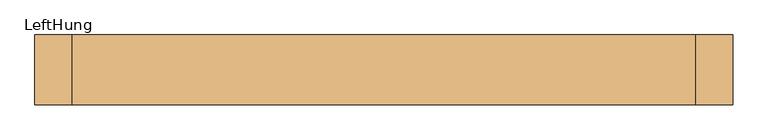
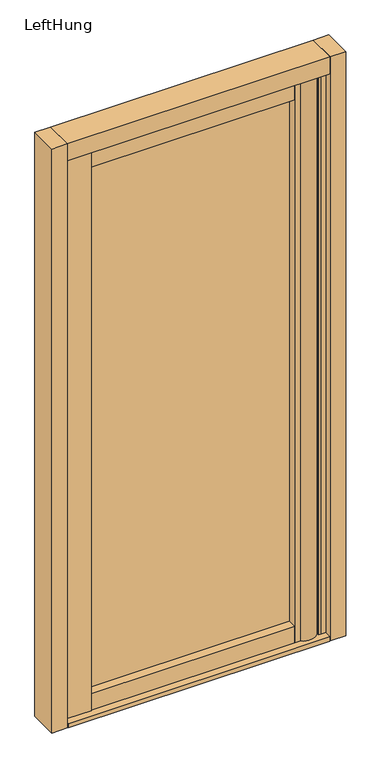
"""IFC4 building model written with IfcOpenShell, lengths in millimetres: door geometry, SMARTS_SmartWall : LeftHung."""

from ifc_helpers import new_model, si_unit, point, frame, frame_2d, origin, place, context, project, spatial, polyline, circle_curve, trimmed, segment, composite_curve, outline, extrude, source, transform, mapped, element, save


def lefthung_8a170635(model_context):
    return source(origin(), model_context, "Body", "SweptSolid", [
        extrude(outline(polyline([(-440.9108177, 63.4548082), (-357.0596871, 63.4548082), (-357.0596871, -3.5451901), (-440.9108177, -3.5451901), (-443.0569033, 16.8734509), (-443.0569033, 43.0361673), (-440.9108177, 63.4548082)])), frame((0.0, 0.0, 831.0), z_axis=(0.0, 0.0, 1.0), x_axis=(1.0, 0.0, 0.0)), (0.0, 0.0, 1.0), 2013.0),
        extrude(outline(polyline([(447.0585468, 5.49833), (429.2495449, 5.49833), (421.965126, 8.5903824), (426.0287297, 18.1636329), (426.0287297, 41.8330271), (421.965126, 51.4062776), (429.2495449, 54.49833), (447.0585468, 54.49833), (447.0585468, 5.49833)])), frame((0.0, 0.0, 810.0), z_axis=(0.0, 0.0, 1.0), x_axis=(1.0, 0.0, 0.0)), (0.0, 0.0, 1.0), 2040.0),
        extrude(outline(polyline([(336.0613093, 56.2428114), (336.0613093, 28.2428114), (-357.1, 28.2428114), (-357.1, 56.2428114), (336.0613093, 56.2428114)])), frame((0.0, 0.0, 891.0), z_axis=(0.0, 0.0, 1.0), x_axis=(1.0, 0.0, 0.0)), (0.0, 0.0, 1.0), 1893.0),
        extrude(outline(composite_curve([segment(polyline([(356.0033811, -2.264458), (336.0613093, -2.264458), (336.0613093, 62.4668875), (356.2479151, 62.5314047)]), True, "CONTINUOUS"), segment(trimmed(circle_curve(frame_2d((382.0601718, 30.0355987)), 41.5), [point((356.2479151, 62.5314047))], [point((356.0033811, -2.264458))], False, "CARTESIAN"), True, "CONTINUOUS")], self_intersect=False)), frame((0.0, 0.0, 831.0), z_axis=(0.0, 0.0, 1.0), x_axis=(1.0, 0.0, 0.0)), (0.0, 0.0, 1.0), 2013.0),
        extrude(outline(polyline([(-500.0, 79.9975), (-447.0585468, 79.9975), (-447.0585468, -20.0), (-500.0, -20.0), (-500.0, 79.9975)])), frame((0.0, 0.0, 810.0), z_axis=(0.0, 0.0, 1.0), x_axis=(1.0, 0.0, 0.0)), (0.0, 0.0, 1.0), 2100.0),
        extrude(outline(polyline([(500.0, 79.9975), (500.0, -20.0), (447.0585468, -20.0), (447.0585468, 79.9975), (500.0, 79.9975)])), frame((0.0, 0.0, 810.0), z_axis=(0.0, 0.0, 1.0), x_axis=(1.0, 0.0, 0.0)), (0.0, 0.0, 1.0), 2100.0),
        extrude(outline(polyline([(-445.0, -20.0), (-445.0, 79.9975), (445.0, 79.9975), (445.0, -20.0), (-445.0, -20.0)])), frame((0.0, 0.0, 810.0), z_axis=(0.0, 0.0, 1.0), x_axis=(1.0, 0.0, 0.0)), (0.0, 0.0, 1.0), 15.0),
        extrude(outline(polyline([(-357.1, -2.50125), (-357.1, 62.49875), (336.0613093, 62.49875), (336.0613093, -2.50125), (-357.1, -2.50125)])), frame((0.0, 0.0, 831.0), z_axis=(0.0, 0.0, 1.0), x_axis=(1.0, 0.0, 0.0)), (0.0, 0.0, 1.0), 60.0),
        extrude(outline(polyline([(-357.1, -2.50125), (-357.1, 62.49875), (336.0613093, 62.49875), (336.0613093, -2.50125), (-357.1, -2.50125)])), frame((0.0, 0.0, 2784.0), z_axis=(0.0, 0.0, 1.0), x_axis=(1.0, 0.0, 0.0)), (0.0, 0.0, 1.0), 60.0),
        extrude(outline(polyline([(-447.0585468, -20.0), (-447.0585468, 79.9975), (447.0, 79.9975), (447.0, -20.0), (-447.0585468, -20.0)])), frame((0.0, 0.0, 2850.0), z_axis=(0.0, 0.0, 1.0), x_axis=(1.0, 0.0, 0.0)), (0.0, 0.0, 1.0), 60.0),
    ])


if __name__ == "__main__":
    model = new_model("IFC4")
    model_context = context("Model", 3, world=origin())
    ifc_project = project(units=[si_unit("LENGTHUNIT", "METRE", prefix="MILLI")], contexts=[model_context])
    site = spatial("IfcSite", under=ifc_project)
    building = spatial("IfcBuilding", under=site)
    placement = place(None, origin())
    lefthung_shape = lefthung_8a170635(model_context)
    element("IfcDoor", 1, ObjectType="SMARTS_SmartWall : LeftHung", at=placement, inside=building, context=model_context, shape_type="MappedRepresentation", body=[
        mapped(lefthung_shape, transform((0.0, 0.0, 0.0), x_axis=(1.0, 0.0, 0.0), y_axis=(0.0, 1.0, 0.0), z_axis=(0.0, 0.0, 1.0))),
    ])
    save(model, "model.ifc")
